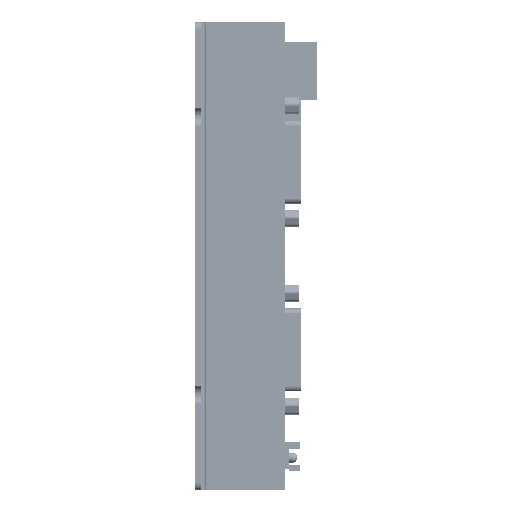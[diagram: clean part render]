
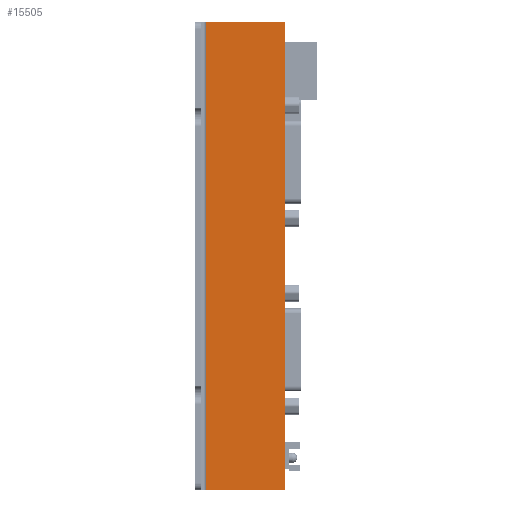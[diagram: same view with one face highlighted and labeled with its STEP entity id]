
A CAD part, left-side view. The second image highlights one B-rep face of the part: STEP entity #15505.
In plain terms, the highlighted planar face has unit normal (-1, 0, 0).
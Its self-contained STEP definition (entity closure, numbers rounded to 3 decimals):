
#8049 = LINE ( 'NONE', #68750, #67384 ) ;
#8305 = VECTOR ( 'NONE', #74718, 1000. ) ;
#10071 = CARTESIAN_POINT ( 'NONE',  ( -128., -69., 23.5 ) ) ;
#12624 = EDGE_CURVE ( 'NONE', #22732, #57507, #73842, .T. ) ;
#15505 = ADVANCED_FACE ( 'NONE', ( #19764 ), #30286, .F. ) ;
#18432 = EDGE_CURVE ( 'NONE', #70088, #33650, #26793, .T. ) ;
#18439 = EDGE_CURVE ( 'NONE', #70088, #22732, #38835, .T. ) ;
#19764 = FACE_OUTER_BOUND ( 'NONE', #32547, .T. ) ;
#20474 = CARTESIAN_POINT ( 'NONE',  ( -128., 69., 0. ) ) ;
#22732 = VERTEX_POINT ( 'NONE', #74446 ) ;
#26793 = LINE ( 'NONE', #45839, #8305 ) ;
#27195 = CARTESIAN_POINT ( 'NONE',  ( -128., 69., 23.5 ) ) ;
#30286 = PLANE ( 'NONE',  #49401 ) ;
#32547 = EDGE_LOOP ( 'NONE', ( #48341, #44444, #51150, #40466 ) ) ;
#33650 = VERTEX_POINT ( 'NONE', #10071 ) ;
#37642 = DIRECTION ( 'NONE',  ( 1., 0., 0. ) ) ;
#38835 = LINE ( 'NONE', #27195, #69208 ) ;
#39221 = DIRECTION ( 'NONE',  ( 0., 0., -1. ) ) ;
#40379 = EDGE_CURVE ( 'NONE', #33650, #57507, #8049, .T. ) ;
#40466 = ORIENTED_EDGE ( 'NONE', *, *, #18439, .T. ) ;
#44444 = ORIENTED_EDGE ( 'NONE', *, *, #40379, .F. ) ;
#45839 = CARTESIAN_POINT ( 'NONE',  ( -128., 69., 23.5 ) ) ;
#46879 = CARTESIAN_POINT ( 'NONE',  ( -128., -69., 0. ) ) ;
#48341 = ORIENTED_EDGE ( 'NONE', *, *, #12624, .T. ) ;
#49401 = AXIS2_PLACEMENT_3D ( 'NONE', #67273, #37642, #71609 ) ;
#50419 = DIRECTION ( 'NONE',  ( 0., 0., -1. ) ) ;
#51150 = ORIENTED_EDGE ( 'NONE', *, *, #18432, .F. ) ;
#57507 = VERTEX_POINT ( 'NONE', #46879 ) ;
#61442 = CARTESIAN_POINT ( 'NONE',  ( -128., 69., 23.5 ) ) ;
#67273 = CARTESIAN_POINT ( 'NONE',  ( -128., 69., 23.5 ) ) ;
#67384 = VECTOR ( 'NONE', #50419, 1000. ) ;
#68016 = DIRECTION ( 'NONE',  ( 0., -1., 0. ) ) ;
#68750 = CARTESIAN_POINT ( 'NONE',  ( -128., -69., 23.5 ) ) ;
#69208 = VECTOR ( 'NONE', #39221, 1000. ) ;
#70088 = VERTEX_POINT ( 'NONE', #61442 ) ;
#70281 = VECTOR ( 'NONE', #68016, 1000. ) ;
#71609 = DIRECTION ( 'NONE',  ( 0., 1., 0. ) ) ;
#73842 = LINE ( 'NONE', #20474, #70281 ) ;
#74446 = CARTESIAN_POINT ( 'NONE',  ( -128., 69., 0. ) ) ;
#74718 = DIRECTION ( 'NONE',  ( 0., -1., 0. ) ) ;
